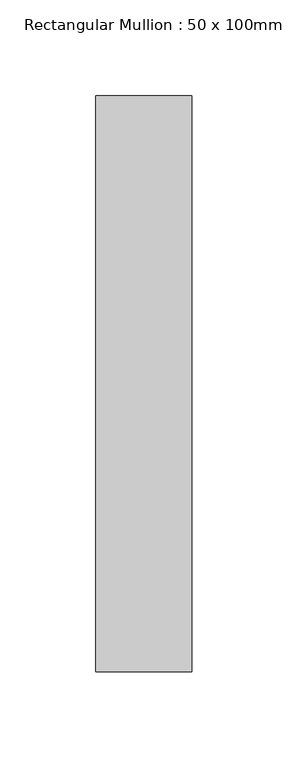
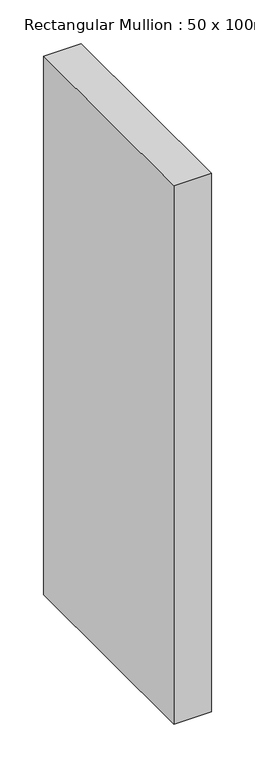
"""IFC4 building model written with IfcOpenShell, lengths in millimetres: member geometry, Rectangular Mullion : 50 x 100mm."""

from ifc_helpers import new_model, si_unit, frame, origin, place, context, project, spatial, polyline, outline, extrude, source, transform, mapped, element, save


def rectangular_mullion_50_x_100mm_1764b891(model_context):
    return source(origin(), model_context, "Body", "SweptSolid", [
        extrude(outline(polyline([(0.0, 175.0), (0.0, -125.0), (-50.0, -125.0), (-50.0, 175.0), (0.0, 175.0)])), frame((0.0, 0.0, -755.0), z_axis=(0.0, 0.0, 1.0), x_axis=(1.0, 0.0, 0.0)), (0.0, 0.0, 1.0), 755.0),
    ])


if __name__ == "__main__":
    model = new_model("IFC4")
    model_context = context("Model", 3, world=origin())
    ifc_project = project(units=[si_unit("LENGTHUNIT", "METRE", prefix="MILLI")], contexts=[model_context])
    site = spatial("IfcSite", under=ifc_project)
    building = spatial("IfcBuilding", under=site)
    placement = place(None, origin())
    rectangular_mullion_50_x_100mm_shape = rectangular_mullion_50_x_100mm_1764b891(model_context)
    element("IfcMember", 1, ObjectType="Rectangular Mullion : 50 x 100mm", at=placement, inside=building, context=model_context, shape_type="MappedRepresentation", body=[
        mapped(rectangular_mullion_50_x_100mm_shape, transform((0.0, 0.0, 0.0), x_axis=(1.0, 0.0, 0.0), y_axis=(0.0, 1.0, 0.0), z_axis=(0.0, 0.0, 1.0))),
    ])
    save(model, "model.ifc")
